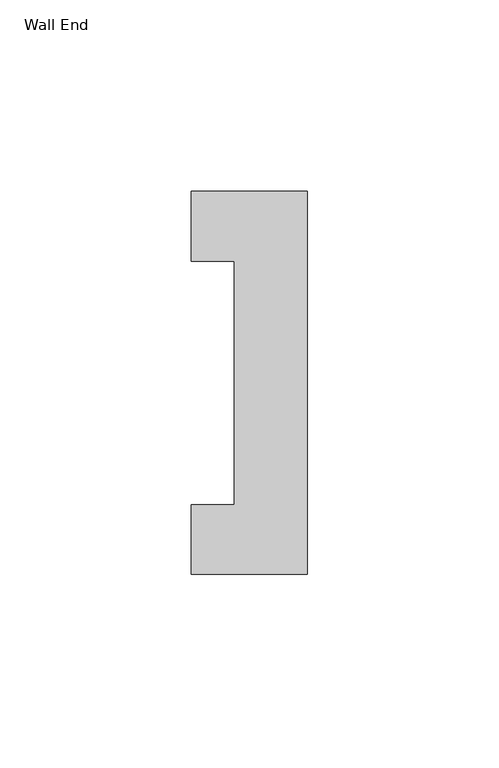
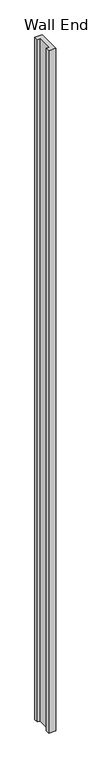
"""IFC4 building model written with IfcOpenShell, lengths in millimetres: proxy geometry, Connection-Wall_End-Teknion-Altos-FKF : Wall End."""

from ifc_helpers import new_model, si_unit, origin, origin_with_axes, place, context, project, spatial, polyline, outline, extrude, source, transform, mapped, element, save


def wall_end_835682c7(model_context):
    return source(origin(), model_context, "Body", "SweptSolid", [
        extrude(outline(polyline([(-30.226, 50.00625), (0.0, 50.00625), (0.0, -49.9937507), (-30.226, -49.9937507), (-30.226, -31.7438507), (-19.05, -31.7438507), (-19.05, 31.75635), (-30.226, 31.75635), (-30.226, 50.00625)])), origin_with_axes(), (0.0, 0.0, 1.0), 3048.0),
    ])


if __name__ == "__main__":
    model = new_model("IFC4")
    model_context = context("Model", 3, world=origin())
    ifc_project = project(units=[si_unit("LENGTHUNIT", "METRE", prefix="MILLI")], contexts=[model_context])
    site = spatial("IfcSite", under=ifc_project)
    building = spatial("IfcBuilding", under=site)
    placement = place(None, origin())
    wall_end_shape = wall_end_835682c7(model_context)
    element("IfcBuildingElementProxy", 1, Name="Connection-Wall_End-Teknion-Altos-FKF : Wall End", ObjectType="Connection-Wall_End-Teknion-Altos-FKF : Wall End", at=placement, inside=building, context=model_context, shape_type="MappedRepresentation", body=[
        mapped(wall_end_shape, transform((0.0, 0.0, 0.0), x_axis=(1.0, 0.0, 0.0), y_axis=(0.0, 1.0, 0.0), z_axis=(0.0, 0.0, 1.0))),
    ])
    save(model, "model.ifc")
